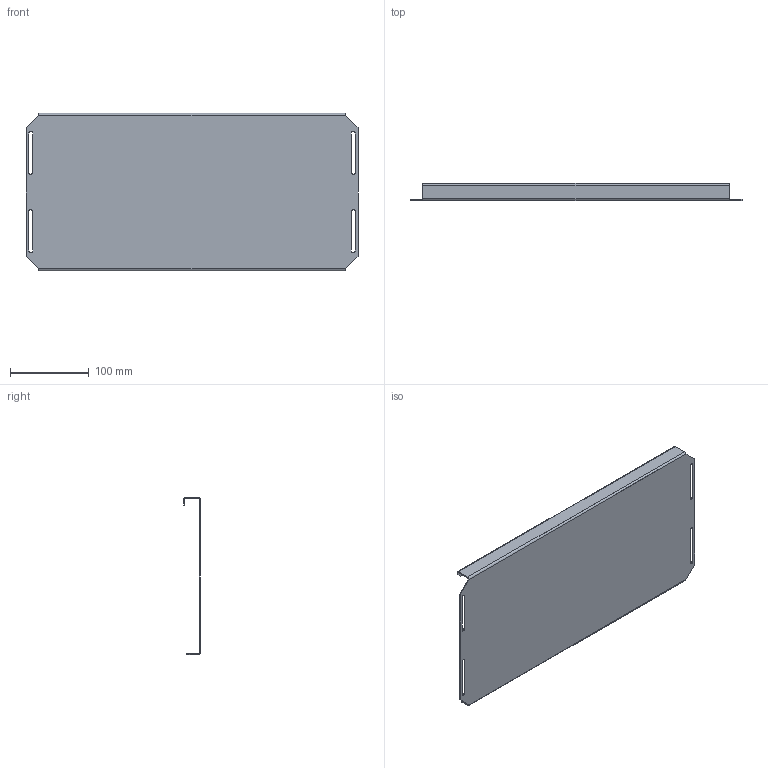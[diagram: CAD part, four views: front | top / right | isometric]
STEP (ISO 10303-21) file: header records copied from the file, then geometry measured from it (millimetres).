
FILE_DESCRIPTION (( 'STEP AP214' ), '1' );
FILE_NAME ('FC 230 P Ïàíåëü êîíöåâàÿ.STEP', '2022-08-18T10:05:08', ( '' ), ( '' ), 'SwSTEP 2.0', 'SolidWorks 2018', '' );
FILE_SCHEMA (( 'AUTOMOTIVE_DESIGN' ));
Length unit declared in the file: millimetre
Products named in the file (1): FC 230 P Ïàíåëü êîíöåâàÿ
Bounding box: 422 x 21.4 x 200 mm (x, y, z)
Volume: 119476.7 mm3; surface area: 201221.4 mm2
Topology: 1 solids, 1 shells, 58 faces, 144 edges, 88 vertices
Faces by surface type: plane 40, cylinder 18
Entity records: 1742 total; most frequent: DIRECTION 298, CARTESIAN_POINT 291, ORIENTED_EDGE 288, EDGE_CURVE 144, LINE 108, VECTOR 108, AXIS2_PLACEMENT_3D 95, VERTEX_POINT 88
